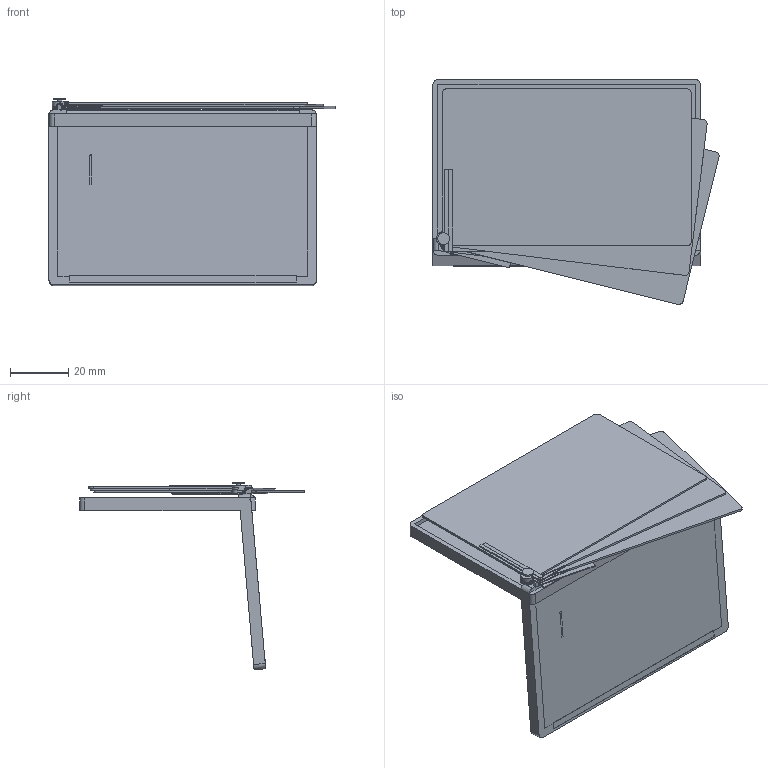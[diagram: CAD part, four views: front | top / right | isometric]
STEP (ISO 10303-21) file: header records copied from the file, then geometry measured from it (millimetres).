
FILE_DESCRIPTION(('Open CASCADE Model'),'2;1');
FILE_NAME('Open CASCADE Shape Model','2026-10-24T14:45:54',('Author'),( 'Open CASCADE'),'Open CASCADE STEP processor 7.7','Open CASCADE 7.7' ,'Unknown');
FILE_SCHEMA(('AUTOMOTIVE_DESIGN { 1 0 10303 214 1 1 1 1 }'));
Length unit declared in the file: millimetre
Products named in the file (1): Open CASCADE STEP translator 7.7 11
Bounding box: 98.37 x 77.29 x 64.48 mm (x, y, z)
Volume: 40859.1 mm3; surface area: 46521.2 mm2
Topology: 1 solids, 2 shells, 238 faces, 690 edges, 459 vertices
Faces by surface type: plane 191, cylinder 47
Full cylindrical faces by diameter (mm): 0.7 x1, 0.9 x1, 1.4 x1, 4 x1
Entity records: 16753 total; most frequent: CARTESIAN_POINT 3717, DIRECTION 2239, ORIENTED_EDGE 1380, PCURVE 1380, DEFINITIONAL_REPRESENTATION 1380, LINE 1377, VECTOR 1377, EDGE_CURVE 690
